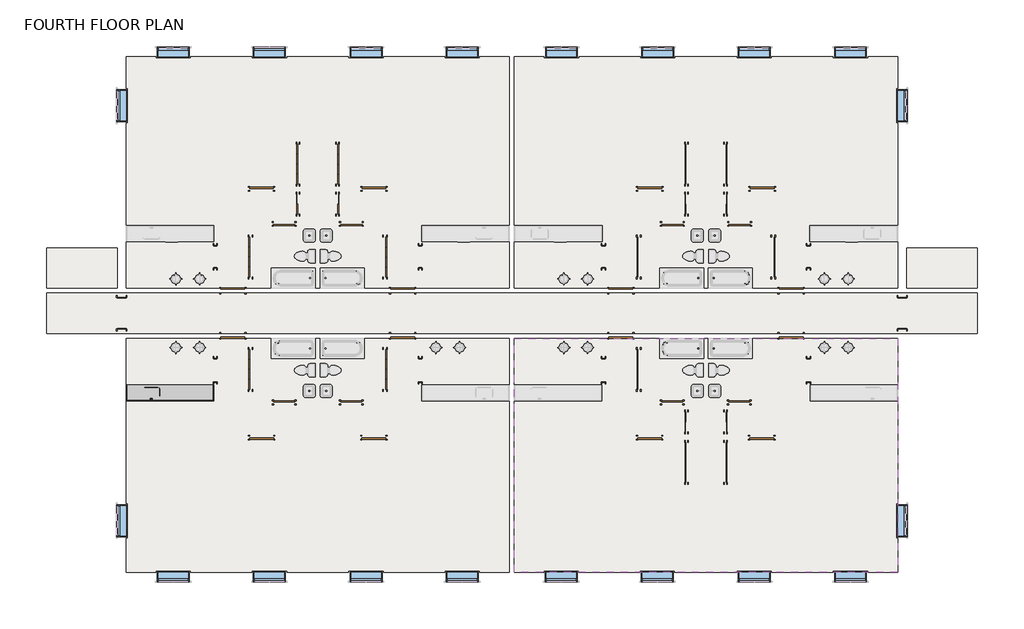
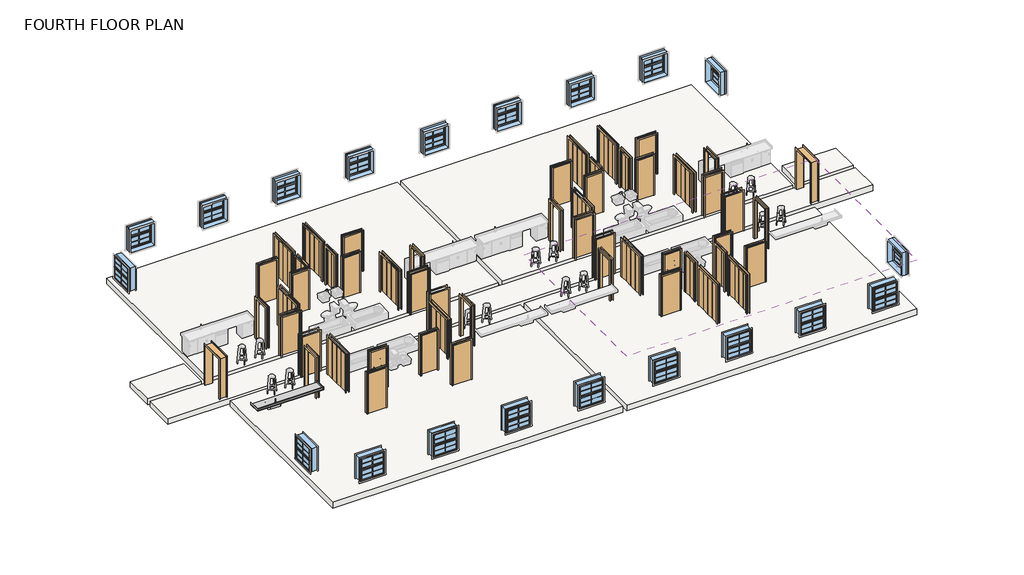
# One storey, part 1 of 3: 57 doors, 20 windows, 3 slabs, 1 covering, 1 flow terminal, 1 furniture element.
"""IFC4 building model written with IfcOpenShell, lengths in millimetres."""

from ifc_helpers import new_model, si_unit, frame, origin, place, context, project, spatial, polyline, outline, extrude, transform, mapped, element, save
from components import door_3f50ce46, door_64f38517, door_5b7037ea, door_d932cd56, door_980512ef, door_37c67c65, door_ff2ed9a9, door_670c294a, door_0b3bd6c5, door_c8d27089, door_5d578f69, door_dc1527fd, door_ed16ebbe, door_053de108, door_d5256492, door_e5d25033, door_70d702ca, lsy_sink_1a_83b20bf5, lsy_bench_top_24dx36h_2ddf329b, window_4464fd46, window_28d7aabf

model = new_model("IFC4")

# Units and contexts
model_context = context("Model", 3, world=origin())
ifc_project = project(units=[si_unit("LENGTHUNIT", "METRE", prefix="MILLI")], contexts=[model_context])

# Site, building, storey
site = spatial("IfcSite", under=ifc_project)
building = spatial("IfcBuilding", under=site)
storey = spatial("IfcBuildingStorey", under=building, Name="FOURTH FLOOR PLAN", Elevation=8534.4)

# Covering
placement = place(None, origin())
element("IfcCovering", 1, ObjectType="5/8\" GWB", at=placement, inside=storey, context=model_context, shape_type="SweptSolid", body=[
    extrude(outline(polyline([(9433.5084875, 15304.2137881), (9433.5084875, 6460.4137881), (-5196.8915125, 6460.4137881), (-5196.8915125, 15304.2137881), (9433.5084875, 15304.2137881)])), frame((0.0, 0.0, 11134.4), z_axis=(0.0, 0.0, 1.0), x_axis=(1.0, 0.0, 0.0)), (0.0, 0.0, 1.0), 60.325),
    extrude(outline(polyline([(24257.1084875, 15304.2137881), (24257.1084875, 6460.4137881), (9627.5084875, 6460.4137881), (9627.5084875, 15304.2137881), (24257.1084875, 15304.2137881)])), frame((0.0, 0.0, 11134.4), z_axis=(0.0, 0.0, 1.0), x_axis=(1.0, 0.0, 0.0)), (0.0, 0.0, 1.0), 60.325),
    extrude(outline(polyline([(27308.0237309, 6266.4137881), (27308.0237309, 4733.2137881), (-8237.806756, 4733.2137881), (-8237.806756, 6266.4137881), (27308.0237309, 6266.4137881)])), frame((0.0, 0.0, 11134.4), z_axis=(0.0, 0.0, 1.0), x_axis=(1.0, 0.0, 0.0)), (0.0, 0.0, 1.0), 60.325),
    extrude(outline(polyline([(9428.1084875, 4539.2137881), (9428.1084875, -4401.5862119), (-5196.8915125, -4401.5862119), (-5196.8915125, 4539.2137881), (9428.1084875, 4539.2137881)])), frame((0.0, 0.0, 11134.4), z_axis=(0.0, 0.0, 1.0), x_axis=(1.0, 0.0, 0.0)), (0.0, 0.0, 1.0), 60.325),
    extrude(outline(polyline([(24257.1084875, 4539.2137881), (24257.1084875, -4401.5862119), (9622.1084875, -4401.5862119), (9622.1084875, 4539.2137881), (24257.1084875, 4539.2137881)])), frame((0.0, 0.0, 11134.4), z_axis=(0.0, 0.0, 1.0), x_axis=(1.0, 0.0, 0.0)), (0.0, 0.0, 1.0), 60.325),
])

# Doors
door_shape = door_3f50ce46(model_context)
element("IfcDoor", 2, ObjectType="Door-Bifold_2-Panel_Flush_SlimFold_Dunbarton : 2'- 6\" x 6' - 8\"", at=placement, inside=storey, context=model_context, shape_type="MappedRepresentation", body=[
    mapped(door_shape, transform((1351.2960171, 1175.3012881, 5689.6), x_axis=(0.0, 1.0, 0.0), y_axis=(-1.0, 0.0, 0.0), z_axis=(0.0, 0.0, 1.0))),
])
element("IfcDoor", 3, ObjectType="Door-Bifold_2-Panel_Flush_SlimFold_Dunbarton : 2'- 6\" x 6' - 8\"", at=placement, inside=storey, context=model_context, shape_type="MappedRepresentation", body=[
    mapped(door_shape, transform((2885.3209578, 9830.6762881, 8534.4), x_axis=(0.0, -1.0, 0.0), y_axis=(1.0, 0.0, 0.0), z_axis=(0.0, 0.0, 1.0))),
])
element("IfcDoor", 4, ObjectType="Door-Bifold_2-Panel_Flush_SlimFold_Dunbarton : 2'- 6\" x 6' - 8\"", at=placement, inside=storey, context=model_context, shape_type="MappedRepresentation", body=[
    mapped(door_shape, transform((17708.9209578, 9830.6762881, 8534.4), x_axis=(0.0, -1.0, 0.0), y_axis=(1.0, 0.0, 0.0), z_axis=(0.0, 0.0, 1.0))),
])
element("IfcDoor", 5, ObjectType="Door-Bifold_2-Panel_Flush_SlimFold_Dunbarton : 2'- 6\" x 6' - 8\"", at=placement, inside=storey, context=model_context, shape_type="MappedRepresentation", body=[
    mapped(door_shape, transform((16176.4960171, 1200.7012881, 8534.4), x_axis=(0.0, 1.0, 0.0), y_axis=(-1.0, 0.0, 0.0), z_axis=(0.0, 0.0, 1.0))),
])
door_2_shape = door_64f38517(model_context)
element("IfcDoor", 6, ObjectType="Door-Bifold_2-Panel_Flush_SlimFold_Dunbarton : 2'- 6\" x 6' - 8\"", at=placement, inside=storey, context=model_context, shape_type="MappedRepresentation", body=[
    mapped(door_2_shape, transform((2885.3209578, 1175.3012881, 5689.6), x_axis=(0.0, 1.0, 0.0), y_axis=(-1.0, 0.0, 0.0), z_axis=(0.0, 0.0, 1.0))),
])
element("IfcDoor", 7, ObjectType="Door-Bifold_2-Panel_Flush_SlimFold_Dunbarton : 2'- 6\" x 6' - 8\"", at=placement, inside=storey, context=model_context, shape_type="MappedRepresentation", body=[
    mapped(door_2_shape, transform((1351.2960171, 9830.6762881, 8534.4), x_axis=(0.0, -1.0, 0.0), y_axis=(1.0, 0.0, 0.0), z_axis=(0.0, 0.0, 1.0))),
])
element("IfcDoor", 8, ObjectType="Door-Bifold_2-Panel_Flush_SlimFold_Dunbarton : 2'- 6\" x 6' - 8\"", at=placement, inside=storey, context=model_context, shape_type="MappedRepresentation", body=[
    mapped(door_2_shape, transform((16176.4960171, 9830.6762881, 8534.4), x_axis=(0.0, -1.0, 0.0), y_axis=(1.0, 0.0, 0.0), z_axis=(0.0, 0.0, 1.0))),
])
element("IfcDoor", 9, ObjectType="Door-Bifold_2-Panel_Flush_SlimFold_Dunbarton : 2'- 6\" x 6' - 8\"", at=placement, inside=storey, context=model_context, shape_type="MappedRepresentation", body=[
    mapped(door_2_shape, transform((17708.9209578, 1200.7012881, 8534.4), x_axis=(0.0, 1.0, 0.0), y_axis=(-1.0, 0.0, 0.0), z_axis=(0.0, 0.0, 1.0))),
])
door_3_shape = door_5b7037ea(model_context)
element("IfcDoor", 10, ObjectType="Door-Bifold 4-Panel Flush SlimFold_Dunbarton : 5'- 0\" x 6' - 8\"", at=placement, inside=storey, context=model_context, shape_type="MappedRepresentation", body=[
    mapped(door_3_shape, transform((1351.2960171, -196.2987119, 5689.6), x_axis=(0.0, 1.0, 0.0), y_axis=(-1.0, 0.0, 0.0), z_axis=(0.0, 0.0, 1.0))),
])
element("IfcDoor", 11, ObjectType="Door-Bifold 4-Panel Flush SlimFold_Dunbarton : 5'- 0\" x 6' - 8\"", at=placement, inside=storey, context=model_context, shape_type="MappedRepresentation", body=[
    mapped(door_3_shape, transform((2885.3209578, 11199.1012881, 8534.4), x_axis=(0.0, -1.0, 0.0), y_axis=(1.0, 0.0, 0.0), z_axis=(0.0, 0.0, 1.0))),
])
element("IfcDoor", 12, ObjectType="Door-Bifold 4-Panel Flush SlimFold_Dunbarton : 5'- 0\" x 6' - 8\"", at=placement, inside=storey, context=model_context, shape_type="MappedRepresentation", body=[
    mapped(door_3_shape, transform((1351.2960171, 11199.1012881, 8534.4), x_axis=(0.0, 1.0, 0.0), y_axis=(-1.0, 0.0, 0.0), z_axis=(0.0, 0.0, 1.0))),
])
element("IfcDoor", 13, ObjectType="Door-Bifold 4-Panel Flush SlimFold_Dunbarton : 5'- 0\" x 6' - 8\"", at=placement, inside=storey, context=model_context, shape_type="MappedRepresentation", body=[
    mapped(door_3_shape, transform((16176.4960171, -199.4737119, 8534.4), x_axis=(0.0, 1.0, 0.0), y_axis=(-1.0, 0.0, 0.0), z_axis=(0.0, 0.0, 1.0))),
])
element("IfcDoor", 14, ObjectType="Door-Bifold 4-Panel Flush SlimFold_Dunbarton : 5'- 0\" x 6' - 8\"", at=placement, inside=storey, context=model_context, shape_type="MappedRepresentation", body=[
    mapped(door_3_shape, transform((17708.9209578, -199.4737119, 8534.4), x_axis=(0.0, -1.0, 0.0), y_axis=(1.0, 0.0, 0.0), z_axis=(0.0, 0.0, 1.0))),
])
door_4_shape = door_d932cd56(model_context)
element("IfcDoor", 15, ObjectType="Door-Bifold 4-Panel Flush SlimFold_Dunbarton : 5'- 0\" x 6' - 8\"", at=placement, inside=storey, context=model_context, shape_type="MappedRepresentation", body=[
    mapped(door_4_shape, transform((4703.0084578, 7654.2137881, 8534.4), x_axis=(0.0, -1.0, 0.0), y_axis=(1.0, 0.0, 0.0), z_axis=(0.0, 0.0, 1.0))),
])
element("IfcDoor", 16, ObjectType="Door-Bifold 4-Panel Flush SlimFold_Dunbarton : 5'- 0\" x 6' - 8\"", at=placement, inside=storey, context=model_context, shape_type="MappedRepresentation", body=[
    mapped(door_4_shape, transform((-466.3914829, 7654.2137881, 8534.4), x_axis=(0.0, 1.0, 0.0), y_axis=(-1.0, 0.0, 0.0), z_axis=(0.0, 0.0, 1.0))),
])
element("IfcDoor", 17, ObjectType="Door-Bifold 4-Panel Flush SlimFold_Dunbarton : 5'- 0\" x 6' - 8\"", at=placement, inside=storey, context=model_context, shape_type="MappedRepresentation", body=[
    mapped(door_4_shape, transform((14358.8085171, 3345.4137881, 8534.4), x_axis=(0.0, 1.0, 0.0), y_axis=(-1.0, 0.0, 0.0), z_axis=(0.0, 0.0, 1.0))),
])
element("IfcDoor", 18, ObjectType="Door-Bifold 4-Panel Flush SlimFold_Dunbarton : 5'- 0\" x 6' - 8\"", at=placement, inside=storey, context=model_context, shape_type="MappedRepresentation", body=[
    mapped(door_4_shape, transform((-466.3914829, 3345.4137881, 8534.4), x_axis=(0.0, 1.0, 0.0), y_axis=(-1.0, 0.0, 0.0), z_axis=(0.0, 0.0, 1.0))),
])
door_5_shape = door_980512ef(model_context)
element("IfcDoor", 19, ObjectType="Door-Bifold 4-Panel Flush SlimFold_Dunbarton : 5'- 0\" x 6' - 8\"", at=placement, inside=storey, context=model_context, shape_type="MappedRepresentation", body=[
    mapped(door_5_shape, transform((14358.8085171, 7654.2137881, 8534.4), x_axis=(0.0, -1.0, 0.0), y_axis=(1.0, 0.0, 0.0), z_axis=(0.0, 0.0, 1.0))),
])
element("IfcDoor", 20, ObjectType="Door-Bifold 4-Panel Flush SlimFold_Dunbarton : 5'- 0\" x 6' - 8\"", at=placement, inside=storey, context=model_context, shape_type="MappedRepresentation", body=[
    mapped(door_5_shape, transform((19526.6084578, 7654.2137881, 8534.4), x_axis=(0.0, 1.0, 0.0), y_axis=(-1.0, 0.0, 0.0), z_axis=(0.0, 0.0, 1.0))),
])
element("IfcDoor", 21, ObjectType="Door-Bifold 4-Panel Flush SlimFold_Dunbarton : 5'- 0\" x 6' - 8\"", at=placement, inside=storey, context=model_context, shape_type="MappedRepresentation", body=[
    mapped(door_5_shape, transform((4703.0084578, 3345.4137881, 8534.4), x_axis=(0.0, 1.0, 0.0), y_axis=(-1.0, 0.0, 0.0), z_axis=(0.0, 0.0, 1.0))),
])
door_6_shape = door_37c67c65(model_context)
element("IfcDoor", 22, ObjectType="Door-Bifold 4-Panel Flush SlimFold_Dunbarton : 5'- 0\" x 6' - 8\"", at=placement, inside=storey, context=model_context, shape_type="MappedRepresentation", body=[
    mapped(door_6_shape, transform((2885.3209578, -196.2987119, 5689.6), x_axis=(0.0, 1.0, 0.0), y_axis=(-1.0, 0.0, 0.0), z_axis=(0.0, 0.0, 1.0))),
])
element("IfcDoor", 23, ObjectType="Door-Bifold 4-Panel Flush SlimFold_Dunbarton : 5'- 0\" x 6' - 8\"", at=placement, inside=storey, context=model_context, shape_type="MappedRepresentation", body=[
    mapped(door_6_shape, transform((16176.4960171, 11199.1012881, 8534.4), x_axis=(0.0, -1.0, 0.0), y_axis=(1.0, 0.0, 0.0), z_axis=(0.0, 0.0, 1.0))),
])
element("IfcDoor", 24, ObjectType="Door-Bifold 4-Panel Flush SlimFold_Dunbarton : 5'- 0\" x 6' - 8\"", at=placement, inside=storey, context=model_context, shape_type="MappedRepresentation", body=[
    mapped(door_6_shape, transform((17708.9209578, 11199.1012881, 8534.4), x_axis=(0.0, 1.0, 0.0), y_axis=(-1.0, 0.0, 0.0), z_axis=(0.0, 0.0, 1.0))),
])
door_7_shape = door_ff2ed9a9(model_context)
element("IfcDoor", 25, ObjectType="M_Opening-Cased : 2'-10\"", at=placement, inside=storey, context=model_context, shape_type="MappedRepresentation", body=[
    mapped(door_7_shape, transform((-1793.4540125, 7662.4024448, 8534.4), x_axis=(0.0, 1.0, 0.0), y_axis=(-1.0, 0.0, 0.0), z_axis=(0.0, 0.0, 1.0))),
])
element("IfcDoor", 26, ObjectType="M_Opening-Cased : 2'-10\"", at=placement, inside=storey, context=model_context, shape_type="MappedRepresentation", body=[
    mapped(door_7_shape, transform((13031.7459875, 7662.4024448, 8534.4), x_axis=(0.0, 1.0, 0.0), y_axis=(-1.0, 0.0, 0.0), z_axis=(0.0, 0.0, 1.0))),
])
door_8_shape = door_670c294a(model_context)
element("IfcDoor", 27, ObjectType="M_Opening-Cased : 2'-10\"", at=placement, inside=storey, context=model_context, shape_type="MappedRepresentation", body=[
    mapped(door_8_shape, transform((20853.6709875, 7662.4024448, 8534.4), x_axis=(0.0, 1.0, 0.0), y_axis=(-1.0, 0.0, 0.0), z_axis=(0.0, 0.0, 1.0))),
])
element("IfcDoor", 28, ObjectType="M_Opening-Cased : 2'-10\"", at=placement, inside=storey, context=model_context, shape_type="MappedRepresentation", body=[
    mapped(door_8_shape, transform((6030.0709875, 7662.4024448, 8534.4), x_axis=(0.0, 1.0, 0.0), y_axis=(-1.0, 0.0, 0.0), z_axis=(0.0, 0.0, 1.0))),
])
door_9_shape = door_0b3bd6c5(model_context)
element("IfcDoor", 29, ObjectType="M_Opening-Cased : 3'-0\"", at=placement, inside=storey, context=model_context, shape_type="MappedRepresentation", body=[
    mapped(door_9_shape, transform((-1793.4540125, 3311.8251313, 8534.4), x_axis=(0.0, -1.0, 0.0), y_axis=(1.0, 0.0, 0.0), z_axis=(0.0, 0.0, 1.0))),
])
element("IfcDoor", 30, ObjectType="M_Opening-Cased : 3'-0\"", at=placement, inside=storey, context=model_context, shape_type="MappedRepresentation", body=[
    mapped(door_9_shape, transform((13031.7459875, 3311.8251313, 8534.4), x_axis=(0.0, -1.0, 0.0), y_axis=(1.0, 0.0, 0.0), z_axis=(0.0, 0.0, 1.0))),
])
door_10_shape = door_c8d27089(model_context)
element("IfcDoor", 31, ObjectType="M_Opening-Cased : 3'-0\"", at=placement, inside=storey, context=model_context, shape_type="MappedRepresentation", body=[
    mapped(door_10_shape, transform((6030.0709875, 3311.8251313, 8534.4), x_axis=(0.0, -1.0, 0.0), y_axis=(1.0, 0.0, 0.0), z_axis=(0.0, 0.0, 1.0))),
])
element("IfcDoor", 32, ObjectType="M_Opening-Cased : 3'-0\"", at=placement, inside=storey, context=model_context, shape_type="MappedRepresentation", body=[
    mapped(door_10_shape, transform((20853.6709875, 3311.8251313, 8534.4), x_axis=(0.0, -1.0, 0.0), y_axis=(1.0, 0.0, 0.0), z_axis=(0.0, 0.0, 1.0))),
])
door_11_shape = door_5d578f69(model_context)
element("IfcDoor", 33, ObjectType="M_Opening-Cased : 4'-0\"", at=placement, inside=storey, context=model_context, shape_type="MappedRepresentation", body=[
    mapped(door_11_shape, transform((-5371.8915125, 5491.6251313, 8534.4), x_axis=(0.0, -1.0, 0.0), y_axis=(1.0, 0.0, 0.0), z_axis=(0.0, 0.0, 1.0))),
])
element("IfcDoor", 34, ObjectType="M_Opening-Cased : 4'-0\"", at=placement, inside=storey, context=model_context, shape_type="MappedRepresentation", body=[
    mapped(door_11_shape, transform((24432.1084875, 5491.6251313, 8534.4), x_axis=(0.0, -1.0, 0.0), y_axis=(1.0, 0.0, 0.0), z_axis=(0.0, 0.0, 1.0))),
])
door_12_shape = door_dc1527fd(model_context)
element("IfcDoor", 35, ObjectType="Single-Flush : 32\" X 84\"", at=placement, inside=storey, context=model_context, shape_type="MappedRepresentation", body=[
    mapped(door_12_shape, transform((834.0209875, 8909.9262881, 8534.4), x_axis=(-1.0, 0.0, 0.0), y_axis=(0.0, -1.0, 0.0), z_axis=(0.0, 0.0, 1.0))),
])
element("IfcDoor", 36, ObjectType="Single-Flush : 32\" X 84\"", at=placement, inside=storey, context=model_context, shape_type="MappedRepresentation", body=[
    mapped(door_12_shape, transform((15658.4209875, 8909.9262881, 8534.4), x_axis=(-1.0, 0.0, 0.0), y_axis=(0.0, -1.0, 0.0), z_axis=(0.0, 0.0, 1.0))),
])
element("IfcDoor", 37, ObjectType="Single-Flush : 32\" X 84\"", at=placement, inside=storey, context=model_context, shape_type="MappedRepresentation", body=[
    mapped(door_12_shape, transform((3396.4084875, 2089.7012881, 8534.4), x_axis=(1.0, 0.0, 0.0), y_axis=(0.0, 1.0, 0.0), z_axis=(0.0, 0.0, 1.0))),
])
element("IfcDoor", 38, ObjectType="Single-Flush : 32\" X 84\"", at=placement, inside=storey, context=model_context, shape_type="MappedRepresentation", body=[
    mapped(door_12_shape, transform((18210.0084875, 2089.7012881, 8534.4), x_axis=(1.0, 0.0, 0.0), y_axis=(0.0, 1.0, 0.0), z_axis=(0.0, 0.0, 1.0))),
])
door_13_shape = door_ed16ebbe(model_context)
element("IfcDoor", 39, ObjectType="Single-Flush : 32\" X 84\"", at=placement, inside=storey, context=model_context, shape_type="MappedRepresentation", body=[
    mapped(door_13_shape, transform((840.2084875, 2089.7012881, 8534.4), x_axis=(-1.0, 0.0, 0.0), y_axis=(0.0, -1.0, 0.0), z_axis=(0.0, 0.0, 1.0))),
])
element("IfcDoor", 40, ObjectType="Single-Flush : 32\" X 84\"", at=placement, inside=storey, context=model_context, shape_type="MappedRepresentation", body=[
    mapped(door_13_shape, transform((3402.5959875, 8909.9262881, 8534.4), x_axis=(1.0, 0.0, 0.0), y_axis=(0.0, 1.0, 0.0), z_axis=(0.0, 0.0, 1.0))),
])
element("IfcDoor", 41, ObjectType="Single-Flush : 32\" X 84\"", at=placement, inside=storey, context=model_context, shape_type="MappedRepresentation", body=[
    mapped(door_13_shape, transform((18226.9959875, 8909.9262881, 8534.4), x_axis=(1.0, 0.0, 0.0), y_axis=(0.0, 1.0, 0.0), z_axis=(0.0, 0.0, 1.0))),
])
element("IfcDoor", 42, ObjectType="Single-Flush : 32\" X 84\"", at=placement, inside=storey, context=model_context, shape_type="MappedRepresentation", body=[
    mapped(door_13_shape, transform((15653.8084875, 2089.7012881, 8534.4), x_axis=(-1.0, 0.0, 0.0), y_axis=(0.0, -1.0, 0.0), z_axis=(0.0, 0.0, 1.0))),
])
door_14_shape = door_053de108(model_context)
element("IfcDoor", 43, ObjectType="Single-Flush : 36' x 84\"", at=placement, inside=storey, context=model_context, shape_type="MappedRepresentation", body=[
    mapped(door_14_shape, transform((-1121.9415125, 4636.2137881, 8534.4), x_axis=(-1.0, 0.0, 0.0), y_axis=(0.0, -1.0, 0.0), z_axis=(0.0, 0.0, 1.0))),
])
element("IfcDoor", 44, ObjectType="Single-Flush : 36' x 84\"", at=placement, inside=storey, context=model_context, shape_type="MappedRepresentation", body=[
    mapped(door_14_shape, transform((5358.5584875, 6363.4137881, 8534.4), x_axis=(1.0, 0.0, 0.0), y_axis=(0.0, 1.0, 0.0), z_axis=(0.0, 0.0, 1.0))),
])
element("IfcDoor", 45, ObjectType="Single-Flush : 36' x 84\"", at=placement, inside=storey, context=model_context, shape_type="MappedRepresentation", body=[
    mapped(door_14_shape, transform((13691.6584875, 4636.2137881, 8534.4), x_axis=(-1.0, 0.0, 0.0), y_axis=(0.0, -1.0, 0.0), z_axis=(0.0, 0.0, 1.0))),
])
element("IfcDoor", 46, ObjectType="Single-Flush : 36' x 84\"", at=placement, inside=storey, context=model_context, shape_type="MappedRepresentation", body=[
    mapped(door_14_shape, transform((20193.7584875, 6363.4137881, 8534.4), x_axis=(1.0, 0.0, 0.0), y_axis=(0.0, 1.0, 0.0), z_axis=(0.0, 0.0, 1.0))),
])
door_15_shape = door_d5256492(model_context)
element("IfcDoor", 47, ObjectType="Single-Flush : 36' x 84\"", at=placement, inside=storey, context=model_context, shape_type="MappedRepresentation", body=[
    mapped(door_15_shape, transform((-1121.9415125, 6363.4137881, 8534.4), x_axis=(-1.0, 0.0, 0.0), y_axis=(0.0, -1.0, 0.0), z_axis=(0.0, 0.0, 1.0))),
])
element("IfcDoor", 48, ObjectType="Single-Flush : 36' x 84\"", at=placement, inside=storey, context=model_context, shape_type="MappedRepresentation", body=[
    mapped(door_15_shape, transform((5358.5584875, 4636.2137881, 8534.4), x_axis=(1.0, 0.0, 0.0), y_axis=(0.0, 1.0, 0.0), z_axis=(0.0, 0.0, 1.0))),
])
element("IfcDoor", 49, ObjectType="Single-Flush : 36' x 84\"", at=placement, inside=storey, context=model_context, shape_type="MappedRepresentation", body=[
    mapped(door_15_shape, transform((13691.6584875, 6363.4137881, 8534.4), x_axis=(-1.0, 0.0, 0.0), y_axis=(0.0, -1.0, 0.0), z_axis=(0.0, 0.0, 1.0))),
])
element("IfcDoor", 50, ObjectType="Single-Flush : 36' x 84\"", at=placement, inside=storey, context=model_context, shape_type="MappedRepresentation", body=[
    mapped(door_15_shape, transform((20193.7584875, 4636.2137881, 8534.4), x_axis=(1.0, 0.0, 0.0), y_axis=(0.0, 1.0, 0.0), z_axis=(0.0, 0.0, 1.0))),
])
door_16_shape = door_e5d25033(model_context)
element("IfcDoor", 51, ObjectType="Single-Flush : 36' x 84\"", at=placement, inside=storey, context=model_context, shape_type="MappedRepresentation", body=[
    mapped(door_16_shape, transform((-23.3915125, 746.6762881, 8534.4), x_axis=(-1.0, 0.0, 0.0), y_axis=(0.0, -1.0, 0.0), z_axis=(0.0, 0.0, 1.0))),
])
element("IfcDoor", 52, ObjectType="Single-Flush : 36' x 84\"", at=placement, inside=storey, context=model_context, shape_type="MappedRepresentation", body=[
    mapped(door_16_shape, transform((14790.2084875, 746.6762881, 8534.4), x_axis=(-1.0, 0.0, 0.0), y_axis=(0.0, -1.0, 0.0), z_axis=(0.0, 0.0, 1.0))),
])
element("IfcDoor", 53, ObjectType="Single-Flush : 36' x 84\"", at=placement, inside=storey, context=model_context, shape_type="MappedRepresentation", body=[
    mapped(door_16_shape, transform((4266.1959875, 10252.9512881, 8534.4), x_axis=(1.0, 0.0, 0.0), y_axis=(0.0, 1.0, 0.0), z_axis=(0.0, 0.0, 1.0))),
])
element("IfcDoor", 54, ObjectType="Single-Flush : 36' x 84\"", at=placement, inside=storey, context=model_context, shape_type="MappedRepresentation", body=[
    mapped(door_16_shape, transform((19090.5959875, 10252.9512881, 8534.4), x_axis=(1.0, 0.0, 0.0), y_axis=(0.0, 1.0, 0.0), z_axis=(0.0, 0.0, 1.0))),
])
door_17_shape = door_70d702ca(model_context)
element("IfcDoor", 55, ObjectType="Single-Flush : 36' x 84\"", at=placement, inside=storey, context=model_context, shape_type="MappedRepresentation", body=[
    mapped(door_17_shape, transform((4260.0084875, 746.6762881, 8534.4), x_axis=(1.0, 0.0, 0.0), y_axis=(0.0, 1.0, 0.0), z_axis=(0.0, 0.0, 1.0))),
])
element("IfcDoor", 56, ObjectType="Single-Flush : 36' x 84\"", at=placement, inside=storey, context=model_context, shape_type="MappedRepresentation", body=[
    mapped(door_17_shape, transform((19073.6084875, 746.6762881, 8534.4), x_axis=(1.0, 0.0, 0.0), y_axis=(0.0, 1.0, 0.0), z_axis=(0.0, 0.0, 1.0))),
])
element("IfcDoor", 57, ObjectType="Single-Flush : 36' x 84\"", at=placement, inside=storey, context=model_context, shape_type="MappedRepresentation", body=[
    mapped(door_17_shape, transform((-29.5790125, 10252.9512881, 8534.4), x_axis=(-1.0, 0.0, 0.0), y_axis=(0.0, -1.0, 0.0), z_axis=(0.0, 0.0, 1.0))),
])
element("IfcDoor", 58, ObjectType="Single-Flush : 36' x 84\"", at=placement, inside=storey, context=model_context, shape_type="MappedRepresentation", body=[
    mapped(door_17_shape, transform((14794.8209875, 10252.9512881, 8534.4), x_axis=(-1.0, 0.0, 0.0), y_axis=(0.0, -1.0, 0.0), z_axis=(0.0, 0.0, 1.0))),
])

# Flow terminal
lsy_sink_1a_shape = lsy_sink_1a_83b20bf5(model_context)
element("IfcFlowTerminal", 59, ObjectType="LSY_Sink_1A : 25\"W x 15\"D", at=placement, inside=storey, context=model_context, shape_type="MappedRepresentation", body=[
    mapped(lsy_sink_1a_shape, transform((-4252.3057531, 2373.0341892, 8496.3), x_axis=(1.0, 0.0, 0.0), y_axis=(0.0, 1.0, 0.0), z_axis=(0.0, 0.0, 1.0))),
])

# Furniture
lsy_bench_top_24dx36h_shape = lsy_bench_top_24dx36h_2ddf329b(model_context)
element("IfcFurniture", 60, ObjectType="LSY_Bench Top : 24Dx36H", at=placement, inside=storey, context=model_context, shape_type="MappedRepresentation", body=[
    mapped(lsy_bench_top_24dx36h_shape, transform((-3055.8288076, 1536.6137881, 8521.7), x_axis=(-1.0, 0.0, 0.0), y_axis=(0.0, -1.0, 0.0), z_axis=(0.0, 0.0, 1.0))),
])

# Slabs
element("IfcSlab", 61, ObjectType="MultiFamilyGeneric", at=placement, inside=storey, context=model_context, shape_type="SweptSolid", body=[
    extrude(outline(polyline([(-5546.8915125, 7982.0006), (-5546.8915125, 6460.4137881), (-8237.806756, 6460.4137881), (-8237.806756, 7982.0006), (-5546.8915125, 7982.0006)])), frame((0.0, 0.0, 8229.6), z_axis=(0.0, 0.0, 1.0), x_axis=(1.0, 0.0, 0.0)), (0.0, 0.0, 1.0), 304.8),
])
element("IfcSlab", 62, ObjectType="MultiFamilyGeneric", at=placement, inside=storey, context=model_context, shape_type="SweptSolid", body=[
    extrude(outline(polyline([(24607.1084875, 7982.0006), (27308.0237309, 7982.0006), (27308.0237309, 6460.4137881), (24607.1084875, 6460.4137881), (24607.1084875, 7982.0006)])), frame((0.0, 0.0, 8229.6), z_axis=(0.0, 0.0, 1.0), x_axis=(1.0, 0.0, 0.0)), (0.0, 0.0, 1.0), 304.8),
])
element("IfcSlab", 63, ObjectType="MultiFamilyGeneric", at=placement, inside=storey, context=model_context, shape_type="SweptSolid", body=[
    extrude(outline(polyline([(9433.5084875, 15304.2137881), (9433.5084875, 6460.4137881), (-5196.8915125, 6460.4137881), (-5196.8915125, 15304.2137881), (9433.5084875, 15304.2137881)])), frame((0.0, 0.0, 8229.6), z_axis=(0.0, 0.0, 1.0), x_axis=(1.0, 0.0, 0.0)), (0.0, 0.0, 1.0), 304.8),
    extrude(outline(polyline([(24257.1084875, 15304.2137881), (24257.1084875, 6460.4137881), (9627.5084875, 6460.4137881), (9627.5084875, 15304.2137881), (24257.1084875, 15304.2137881)])), frame((0.0, 0.0, 8229.6), z_axis=(0.0, 0.0, 1.0), x_axis=(1.0, 0.0, 0.0)), (0.0, 0.0, 1.0), 304.8),
    extrude(outline(polyline([(9428.1084875, 4539.2137881), (9428.1084875, -4401.5862119), (-5196.8915125, -4401.5862119), (-5196.8915125, 4539.2137881), (9428.1084875, 4539.2137881)])), frame((0.0, 0.0, 8229.6), z_axis=(0.0, 0.0, 1.0), x_axis=(1.0, 0.0, 0.0)), (0.0, 0.0, 1.0), 304.8),
    extrude(outline(polyline([(24257.1084875, 4539.2137881), (24257.1084875, -4401.5862119), (9622.1084875, -4401.5862119), (9622.1084875, 4539.2137881), (24257.1084875, 4539.2137881)])), frame((0.0, 0.0, 8229.6), z_axis=(0.0, 0.0, 1.0), x_axis=(1.0, 0.0, 0.0)), (0.0, 0.0, 1.0), 304.8),
    extrude(outline(polyline([(27308.0237309, 6266.4137881), (27308.0237309, 4733.2137881), (-8237.806756, 4733.2137881), (-8237.806756, 6266.4137881), (27308.0237309, 6266.4137881)])), frame((0.0, 0.0, 8229.6), z_axis=(0.0, 0.0, 1.0), x_axis=(1.0, 0.0, 0.0)), (0.0, 0.0, 1.0), 304.8),
])

# Windows
window_shape = window_4464fd46(model_context)
element("IfcWindow", 64, ObjectType="Window-Awning-Double-Vertical : 48\" x 48\"", at=placement, inside=storey, context=model_context, shape_type="MappedRepresentation", body=[
    mapped(window_shape, transform((-5371.8915125, 13431.007194, 8534.4), x_axis=(0.0, 1.0, 0.0), y_axis=(-1.0, 0.0, 0.0), z_axis=(0.0, 0.0, 1.0))),
])
element("IfcWindow", 65, ObjectType="Window-Awning-Double-Vertical : 48\" x 48\"", at=placement, inside=storey, context=model_context, shape_type="MappedRepresentation", body=[
    mapped(window_shape, transform((-3399.0477625, 15479.2137881, 8534.4), x_axis=(1.0, 0.0, 0.0), y_axis=(0.0, 1.0, 0.0), z_axis=(0.0, 0.0, 1.0))),
])
element("IfcWindow", 66, ObjectType="Window-Awning-Double-Vertical : 48\" x 48\"", at=placement, inside=storey, context=model_context, shape_type="MappedRepresentation", body=[
    mapped(window_shape, transform((271.9647375, 15479.2137881, 8534.4), x_axis=(1.0, 0.0, 0.0), y_axis=(0.0, 1.0, 0.0), z_axis=(0.0, 0.0, 1.0))),
])
element("IfcWindow", 67, ObjectType="Window-Awning-Double-Vertical : 48\" x 48\"", at=placement, inside=storey, context=model_context, shape_type="MappedRepresentation", body=[
    mapped(window_shape, transform((7635.6647375, -4576.5862119, 8534.4), x_axis=(-1.0, 0.0, 0.0), y_axis=(0.0, -1.0, 0.0), z_axis=(0.0, 0.0, 1.0))),
])
element("IfcWindow", 68, ObjectType="Window-Awning-Double-Vertical : 48\" x 48\"", at=placement, inside=storey, context=model_context, shape_type="MappedRepresentation", body=[
    mapped(window_shape, transform((3964.6522375, -4576.5862119, 8534.4), x_axis=(-1.0, 0.0, 0.0), y_axis=(0.0, -1.0, 0.0), z_axis=(0.0, 0.0, 1.0))),
])
element("IfcWindow", 69, ObjectType="Window-Awning-Double-Vertical : 48\" x 48\"", at=placement, inside=storey, context=model_context, shape_type="MappedRepresentation", body=[
    mapped(window_shape, transform((24432.1084875, -2431.3796179, 8534.4), x_axis=(0.0, -1.0, 0.0), y_axis=(1.0, 0.0, 0.0), z_axis=(0.0, 0.0, 1.0))),
])
element("IfcWindow", 70, ObjectType="Window-Awning-Double-Vertical : 48\" x 48\"", at=placement, inside=storey, context=model_context, shape_type="MappedRepresentation", body=[
    mapped(window_shape, transform((22460.0647375, -4576.5862119, 8534.4), x_axis=(-1.0, 0.0, 0.0), y_axis=(0.0, -1.0, 0.0), z_axis=(0.0, 0.0, 1.0))),
])
element("IfcWindow", 71, ObjectType="Window-Awning-Double-Vertical : 48\" x 48\"", at=placement, inside=storey, context=model_context, shape_type="MappedRepresentation", body=[
    mapped(window_shape, transform((18789.0522375, -4576.5862119, 8534.4), x_axis=(-1.0, 0.0, 0.0), y_axis=(0.0, -1.0, 0.0), z_axis=(0.0, 0.0, 1.0))),
])
element("IfcWindow", 72, ObjectType="Window-Awning-Double-Vertical : 48\" x 48\"", at=placement, inside=storey, context=model_context, shape_type="MappedRepresentation", body=[
    mapped(window_shape, transform((11425.3522375, 15479.2137881, 8534.4), x_axis=(1.0, 0.0, 0.0), y_axis=(0.0, 1.0, 0.0), z_axis=(0.0, 0.0, 1.0))),
])
element("IfcWindow", 73, ObjectType="Window-Awning-Double-Vertical : 48\" x 48\"", at=placement, inside=storey, context=model_context, shape_type="MappedRepresentation", body=[
    mapped(window_shape, transform((15096.3647375, 15479.2137881, 8534.4), x_axis=(1.0, 0.0, 0.0), y_axis=(0.0, 1.0, 0.0), z_axis=(0.0, 0.0, 1.0))),
])
window_2_shape = window_28d7aabf(model_context)
element("IfcWindow", 74, ObjectType="Window-Awning-Double-Vertical : 48\" x 48\"", at=placement, inside=storey, context=model_context, shape_type="MappedRepresentation", body=[
    mapped(window_2_shape, transform((7635.6647375, 15479.2137881, 8534.4), x_axis=(-1.0, 0.0, 0.0), y_axis=(0.0, -1.0, 0.0), z_axis=(0.0, 0.0, 1.0))),
])
element("IfcWindow", 75, ObjectType="Window-Awning-Double-Vertical : 48\" x 48\"", at=placement, inside=storey, context=model_context, shape_type="MappedRepresentation", body=[
    mapped(window_2_shape, transform((3964.6522375, 15479.2137881, 8534.4), x_axis=(-1.0, 0.0, 0.0), y_axis=(0.0, -1.0, 0.0), z_axis=(0.0, 0.0, 1.0))),
])
element("IfcWindow", 76, ObjectType="Window-Awning-Double-Vertical : 48\" x 48\"", at=placement, inside=storey, context=model_context, shape_type="MappedRepresentation", body=[
    mapped(window_2_shape, transform((24432.1084875, 13431.007194, 8534.4), x_axis=(0.0, 1.0, 0.0), y_axis=(-1.0, 0.0, 0.0), z_axis=(0.0, 0.0, 1.0))),
])
element("IfcWindow", 77, ObjectType="Window-Awning-Double-Vertical : 48\" x 48\"", at=placement, inside=storey, context=model_context, shape_type="MappedRepresentation", body=[
    mapped(window_2_shape, transform((22460.0647375, 15479.2137881, 8534.4), x_axis=(-1.0, 0.0, 0.0), y_axis=(0.0, -1.0, 0.0), z_axis=(0.0, 0.0, 1.0))),
])
element("IfcWindow", 78, ObjectType="Window-Awning-Double-Vertical : 48\" x 48\"", at=placement, inside=storey, context=model_context, shape_type="MappedRepresentation", body=[
    mapped(window_2_shape, transform((18789.0522375, 15479.2137881, 8534.4), x_axis=(-1.0, 0.0, 0.0), y_axis=(0.0, -1.0, 0.0), z_axis=(0.0, 0.0, 1.0))),
])
element("IfcWindow", 79, ObjectType="Window-Awning-Double-Vertical : 48\" x 48\"", at=placement, inside=storey, context=model_context, shape_type="MappedRepresentation", body=[
    mapped(window_2_shape, transform((-5371.8915125, -2431.3796179, 8534.4), x_axis=(0.0, -1.0, 0.0), y_axis=(1.0, 0.0, 0.0), z_axis=(0.0, 0.0, 1.0))),
])
element("IfcWindow", 80, ObjectType="Window-Awning-Double-Vertical : 48\" x 48\"", at=placement, inside=storey, context=model_context, shape_type="MappedRepresentation", body=[
    mapped(window_2_shape, transform((-3399.0477625, -4576.5862119, 8534.4), x_axis=(1.0, 0.0, 0.0), y_axis=(0.0, 1.0, 0.0), z_axis=(0.0, 0.0, 1.0))),
])
element("IfcWindow", 81, ObjectType="Window-Awning-Double-Vertical : 48\" x 48\"", at=placement, inside=storey, context=model_context, shape_type="MappedRepresentation", body=[
    mapped(window_2_shape, transform((271.9647375, -4576.5862119, 8534.4), x_axis=(1.0, 0.0, 0.0), y_axis=(0.0, 1.0, 0.0), z_axis=(0.0, 0.0, 1.0))),
])
element("IfcWindow", 82, ObjectType="Window-Awning-Double-Vertical : 48\" x 48\"", at=placement, inside=storey, context=model_context, shape_type="MappedRepresentation", body=[
    mapped(window_2_shape, transform((11414.5522375, -4576.5862119, 8534.4), x_axis=(1.0, 0.0, 0.0), y_axis=(0.0, 1.0, 0.0), z_axis=(0.0, 0.0, 1.0))),
])
element("IfcWindow", 83, ObjectType="Window-Awning-Double-Vertical : 48\" x 48\"", at=placement, inside=storey, context=model_context, shape_type="MappedRepresentation", body=[
    mapped(window_2_shape, transform((15085.5647375, -4576.5862119, 8534.4), x_axis=(1.0, 0.0, 0.0), y_axis=(0.0, 1.0, 0.0), z_axis=(0.0, 0.0, 1.0))),
])

save(model, "model.ifc")
